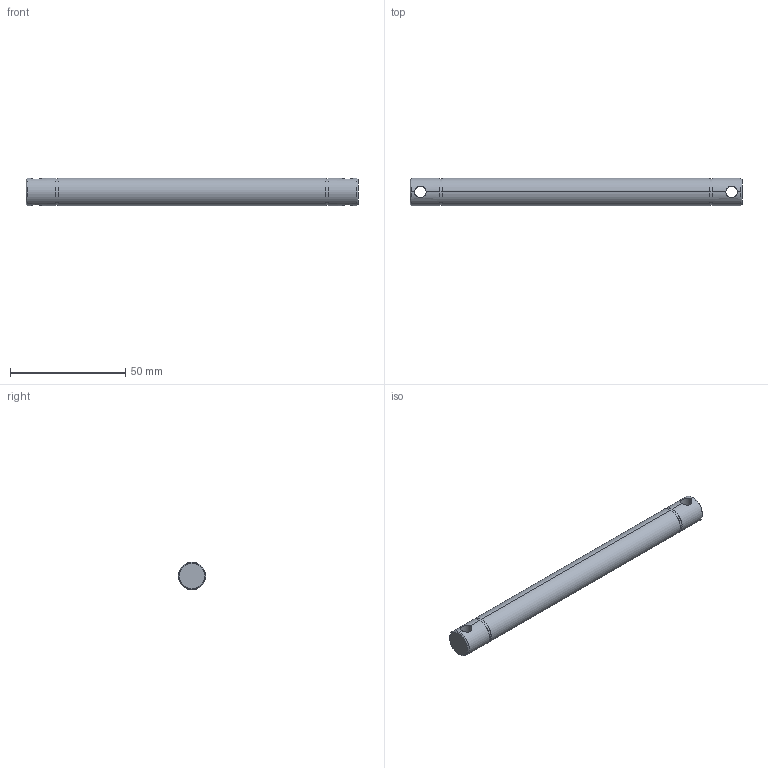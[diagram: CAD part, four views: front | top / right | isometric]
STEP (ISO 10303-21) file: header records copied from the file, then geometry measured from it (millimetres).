
FILE_DESCRIPTION (( 'STEP AP214' ), '1' );
FILE_NAME ('084.030.103.STEP', '2021-02-05T15:31:14', ( '' ), ( '' ), 'SwSTEP 2.0', 'SolidWorks 2018', '' );
FILE_SCHEMA (( 'AUTOMOTIVE_DESIGN' ));
Length unit declared in the file: millimetre
Products named in the file (1): 084.030.103
Bounding box: 144 x 12 x 12 mm (x, y, z)
Volume: 15795.8 mm3; surface area: 5945.3 mm2
Topology: 1 solids, 1 shells, 24 faces, 54 edges, 32 vertices
Faces by surface type: cylinder 14, plane 6, cone 4
Entity records: 976 total; most frequent: CARTESIAN_POINT 351, DIRECTION 120, ORIENTED_EDGE 108, EDGE_CURVE 54, AXIS2_PLACEMENT_3D 49, VERTEX_POINT 32, EDGE_LOOP 28, ADVANCED_FACE 24
